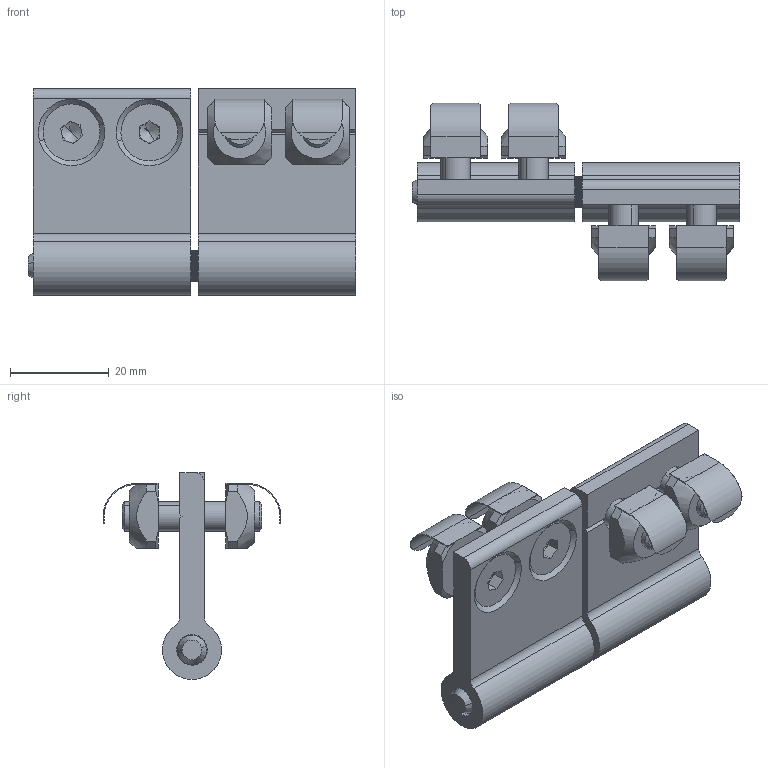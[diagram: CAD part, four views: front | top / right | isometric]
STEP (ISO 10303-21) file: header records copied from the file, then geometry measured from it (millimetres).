
FILE_DESCRIPTION (( 'STEP AP214' ), '1' );
FILE_NAME ('1.4005 Sarana 45-45.STEP', '2025-09-15T08:19:18', ( '' ), ( '' ), 'SwSTEP 2.0', 'SolidWorks 2025', '' );
FILE_SCHEMA (( 'AUTOMOTIVE_DESIGN' ));
Length unit declared in the file: millimetre
Products named in the file (1): 1.4005 Sarana 45-45
Bounding box: 66.5 x 36.09 x 42 mm (x, y, z)
Volume: 20580.7 mm3; surface area: 15330.9 mm2
Topology: 11 solids, 11 shells, 666 faces, 1620 edges, 1040 vertices
Faces by surface type: plane 454, cylinder 136, cone 68, torus 8
Entity records: 27327 total; most frequent: CARTESIAN_POINT 4051, DIRECTION 3334, ORIENTED_EDGE 3224, EDGE_CURVE 1612, AXIS2_PLACEMENT_3D 1187, VERTEX_POINT 1040, LINE 960, VECTOR 960
